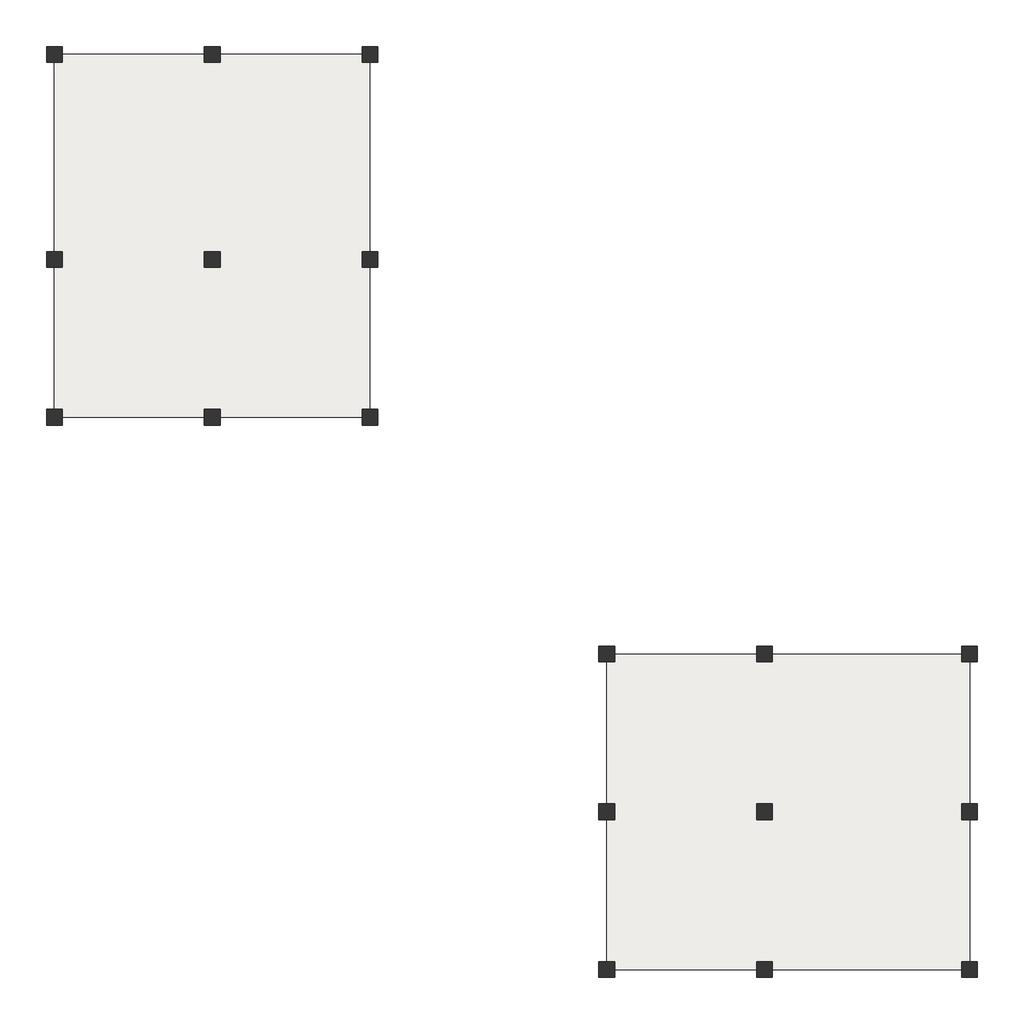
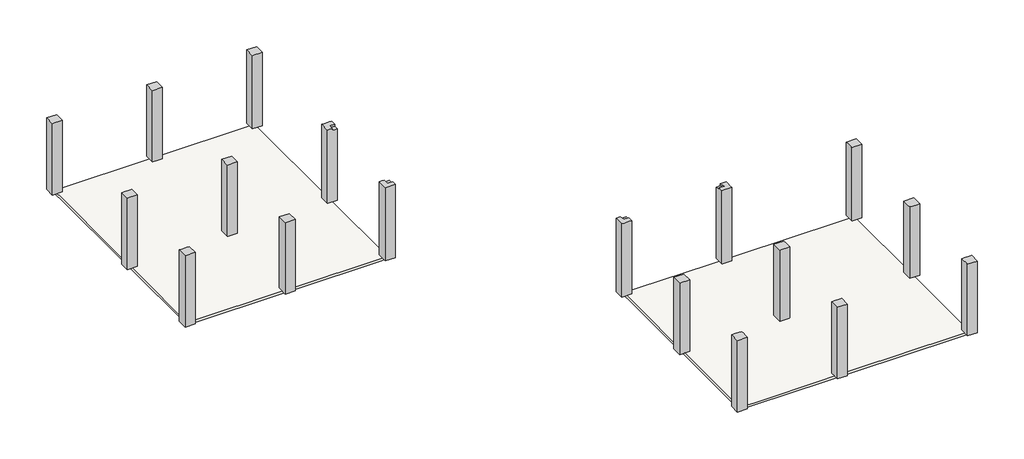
# One storey: 18 columns, 2 slabs.
"""IFC4 building model written with IfcOpenShell, lengths in millimetres."""

import ifcopenshell
import ifcopenshell.guid

model = None  # the IFC model being written
_history = None  # IfcOwnerHistory: only IFC2X3 demands one
_inside = {}  # id of a spatial element -> (the spatial element, [elements in it])
_under = {}  # id of a project, library or spatial element -> (it, [spatial elements below it])
_declared = {}  # id of a project -> (the project, [libraries it declares])
_typed = {}  # id of a type object -> (the type object, [elements of that type])
_made_of = {}  # id of a material, layer set ... -> (it, [elements and type objects made of it])


def new_model(schema):
    """Start an empty IFC model of exactly this schema.

    Asked for "IFC4X3", IfcOpenShell would pick the latest addendum, in which some entities
    have other attributes; the version numbers below select the first issue.
    IFC2X3 requires an IfcOwnerHistory on every rooted entity: one is made here for all.
    """
    global model, _history
    if schema == "IFC4X3":
        model = ifcopenshell.file(schema_version=(4, 3, 0, 0))
    else:
        model = ifcopenshell.file(schema=schema)
    _inside.clear()
    _under.clear()
    _declared.clear()
    _typed.clear()
    _made_of.clear()
    _history = None
    if model.schema == "IFC2X3":
        org = make("IfcOrganization", Name="unknown")
        user = make(
            "IfcPersonAndOrganization",
            ThePerson=make("IfcPerson", FamilyName="unknown"),
            TheOrganization=org,
        )
        app = make(
            "IfcApplication",
            ApplicationDeveloper=org,
            Version="unknown",
            ApplicationFullName="unknown",
            ApplicationIdentifier="unknown",
        )
        _history = make(
            "IfcOwnerHistory",
            OwningUser=user,
            OwningApplication=app,
            ChangeAction="ADDED",
            CreationDate=0,
        )
    return model


def make(cls, **values):
    """One entity of the class cls with the attributes given. An attribute that is None is left unset."""
    return model.create_entity(
        cls, **{name: value for name, value in values.items() if value is not None}
    )


def rooted(cls, **values):
    """An entity with a GlobalId (a new one), such as an element, a storey or a relation."""
    return make(cls, GlobalId=ifcopenshell.guid.new(), OwnerHistory=_history, **values)


def si_unit(unit_type, name, prefix=None):
    """IfcSIUnit, for example si_unit("LENGTHUNIT", "METRE", prefix="MILLI")."""
    return make("IfcSIUnit", UnitType=unit_type, Prefix=prefix, Name=name)


def assignment(units):
    """IfcUnitAssignment: the units of a project."""
    return None if units is None else make("IfcUnitAssignment", Units=units)


def point(xyz):
    """IfcCartesianPoint."""
    return None if xyz is None else make("IfcCartesianPoint", Coordinates=xyz)


def direction(xyz):
    """IfcDirection."""
    return None if xyz is None else make("IfcDirection", DirectionRatios=xyz)


def frame(location, z_axis=None, x_axis=None):
    """IfcAxis2Placement3D, a coordinate frame: its origin and axes. An axis left out is left unset."""
    return make(
        "IfcAxis2Placement3D",
        Location=point(location),
        Axis=direction(z_axis),
        RefDirection=direction(x_axis),
    )


def origin():
    """The frame at (0, 0, 0) with its axes left unset."""
    return frame((0.0, 0.0, 0.0))


def place(relative_to, where):
    """IfcLocalPlacement: puts the frame where relative to a parent placement (None: the world)."""
    return make(
        "IfcLocalPlacement", PlacementRelTo=relative_to, RelativePlacement=where
    )


def context(
    kind, dimensions, precision=None, world=None, true_north=None, identifier=None
):
    """IfcGeometricRepresentationContext, for example the 3D "Model" context."""
    return make(
        "IfcGeometricRepresentationContext",
        ContextIdentifier=identifier,
        ContextType=kind,
        CoordinateSpaceDimension=dimensions,
        Precision=precision,
        WorldCoordinateSystem=world,
        TrueNorth=true_north,
    )


def project(units=None, contexts=None):
    """IfcProject with its units and contexts."""
    return rooted(
        "IfcProject",
        Name="project",
        RepresentationContexts=contexts,
        UnitsInContext=assignment(units),
    )


def spatial(cls, under=None, at=None, **own):
    """A site, building, storey or space (cls), placed at a placement, below another one or the project."""
    s = rooted(cls, ObjectPlacement=at, **own)
    if under is not None:
        _under.setdefault(under.id(), (under, []))[1].append(s)
    return s


def polyline(points):
    """IfcPolyline through the points."""
    return make("IfcPolyline", Points=[point(p) for p in points])


def outline(outer, holes=None, kind="AREA"):
    """IfcArbitraryClosedProfileDef: a profile drawn as a closed curve; with holes, ...WithVoids."""
    if holes is None:
        return make("IfcArbitraryClosedProfileDef", ProfileType=kind, OuterCurve=outer)
    return make(
        "IfcArbitraryProfileDefWithVoids",
        ProfileType=kind,
        OuterCurve=outer,
        InnerCurves=holes,
    )


def extrude(swept, where, along, depth):
    """IfcExtrudedAreaSolid: the profile swept, set in the frame where, extruded along a direction by depth."""
    return make(
        "IfcExtrudedAreaSolid",
        SweptArea=swept,
        Position=where,
        ExtrudedDirection=direction(along),
        Depth=depth,
    )


def faces_of(points, faces, orient=None, outer=None):
    """IfcFace entities. A face is a list of loops; a loop is a list of indices into points, from 0.

    orient and outer hold one flag for each loop. By default every Orientation is true, the
    first loop of a face is its IfcFaceOuterBound and the others are IfcFaceBound.
    """
    made = []
    for i, loops in enumerate(faces):
        bounds = []
        for j, loop in enumerate(loops):
            is_outer = j == 0 if outer is None else outer[i][j]
            bounds.append(
                make(
                    "IfcFaceOuterBound" if is_outer else "IfcFaceBound",
                    Bound=make("IfcPolyLoop", Polygon=[points[k] for k in loop]),
                    Orientation=True if orient is None else orient[i][j],
                )
            )
        made.append(make("IfcFace", Bounds=bounds))
    return made


def faceted_brep(points, faces, orient=None, outer=None, voids=None):
    """IfcFacetedBrep: a solid bounded by flat faces; with voids (closed shells), ...WithVoids."""
    shared = [point(p) for p in points]
    hull = make("IfcClosedShell", CfsFaces=faces_of(shared, faces, orient, outer))
    if voids is None:
        return make("IfcFacetedBrep", Outer=hull)
    return make(
        "IfcFacetedBrepWithVoids",
        Outer=hull,
        Voids=[
            make(cls, CfsFaces=faces_of(shared, fs, o, b)) for cls, fs, o, b in voids
        ],
    )


def shape(context_of_items, identifier, shape_type, items):
    """IfcShapeRepresentation: the items that make up one representation, for example the "Body"."""
    return make(
        "IfcShapeRepresentation",
        ContextOfItems=context_of_items,
        RepresentationIdentifier=identifier,
        RepresentationType=shape_type,
        Items=items,
    )


def made_of(thing, what):
    """Note that an element or type object is made of a material, layer set ...; save() writes the relation."""
    if what is not None:
        _made_of.setdefault(what.id(), (what, []))[1].append(thing)
    return thing


def element(
    cls,
    number,
    at=None,
    inside=None,
    cuts=None,
    type_object=None,
    material=None,
    context=None,
    identifier="Body",
    shape_type=None,
    held_by="IfcProductDefinitionShape",
    body=None,
    shapes=None,
    **own,
):
    """One element of the class cls, such as IfcWall. Its Tag is "e" and its number.

    at: its placement. inside: the storey or other place that contains it. cuts: it is an
    opening in that element (IfcRelVoidsElement). A single representation is given by context,
    identifier, shape_type and body (its items); several are given by shapes. held_by: the class
    of the entity that holds the representations. save() writes the other relations.
    """
    e = rooted(cls, Tag="e%d" % number, ObjectPlacement=at, **own)
    if body is not None:
        shapes = [shape(context, identifier, shape_type, body)]
    if shapes is not None:
        e.Representation = make(held_by, Representations=shapes)
    if inside is not None:
        _inside.setdefault(inside.id(), (inside, []))[1].append(e)
    if cuts is not None:
        rooted(
            "IfcRelVoidsElement", RelatingBuildingElement=cuts, RelatedOpeningElement=e
        )
    if type_object is not None:
        _typed.setdefault(type_object.id(), (type_object, []))[1].append(e)
    return made_of(e, material)


def aggregate(whole, parts):
    """IfcRelAggregates: a whole, such as a stair, and the parts it consists of."""
    return rooted("IfcRelAggregates", RelatingObject=whole, RelatedObjects=parts)


def save(model, path):
    """Write the relations noted so far, then the file.

    IfcRelAggregates (storeys below a building ...), IfcRelContainedInSpatialStructure (elements
    in a storey), IfcRelDefinesByType, IfcRelAssociatesMaterial and IfcRelDeclares: one each for
    every whole, place, type object, material and project.
    """
    for whole, parts in _under.values():
        aggregate(whole, parts)
    for where, things in _inside.values():
        rooted(
            "IfcRelContainedInSpatialStructure",
            RelatedElements=things,
            RelatingStructure=where,
        )
    for kind, things in _typed.values():
        rooted("IfcRelDefinesByType", RelatedObjects=things, RelatingType=kind)
    for what, things in _made_of.values():
        rooted("IfcRelAssociatesMaterial", RelatedObjects=things, RelatingMaterial=what)
    for by, libraries in _declared.values():
        rooted("IfcRelDeclares", RelatingContext=by, RelatedDefinitions=libraries)
    model.write(path)


model = new_model("IFC4")

# Units and contexts
model_context = context("Model", 3, world=origin())
ifc_project = project(units=[si_unit("LENGTHUNIT", "METRE", prefix="MILLI")], contexts=[model_context])

# Site, building, storey
site = spatial("IfcSite", under=ifc_project)
building = spatial("IfcBuilding", under=site)
storey = spatial("IfcBuildingStorey", under=building, Name="T.O.F", Elevation=-1676.4)

# Columns
placement = place(None, origin())
element("IfcColumn", 1, ObjectType="Concrete-Rectangular-Column : 24 x 24", at=placement, inside=storey, context=model_context, shape_type="Brep", body=[
    faceted_brep([(-35055.8783408, -1898.5036449, -1676.4), (-35055.8783408, -1288.9036449, -1676.4), (-34446.2783408, -1288.9036449, -1676.4), (-34446.2783408, -1898.5036449, -1676.4), (-35055.8783408, -1898.5036449, 2927.35), (-35055.8783408, -1746.1036449, 2927.35), (-35055.8783408, -1441.3036449, 2927.35), (-35055.8783408, -1288.9036449, 2927.35), (-34446.2783408, -1288.9036449, 2927.35), (-34446.2783408, -1898.5036449, 2927.35)], [[[0, 1, 2, 3]], [[1, 0, 4, 5, 6, 7]], [[2, 1, 7, 8]], [[3, 2, 8, 9]], [[0, 3, 9, 4]], [[7, 6, 5, 4, 9, 8]]]),
])
element("IfcColumn", 2, ObjectType="Concrete-Rectangular-Column : 24 x 24", at=placement, inside=storey, context=model_context, shape_type="Brep", body=[
    faceted_brep([(-41151.8783408, -1898.5036449, -1676.4), (-41151.8783408, -1288.9036449, -1676.4), (-40542.2783408, -1288.9036449, -1676.4), (-40542.2783408, -1898.5036449, -1676.4), (-41151.8783408, -1898.5036449, 2927.35), (-41151.8783408, -1288.9036449, 2927.35), (-40999.4783408, -1288.9036449, 2927.35), (-40694.6783408, -1288.9036449, 2927.35), (-40542.2783408, -1288.9036449, 2927.35), (-40542.2783408, -1441.3036449, 2927.35), (-40542.2783408, -1746.1036449, 2927.35), (-40542.2783408, -1898.5036449, 2927.35)], [[[0, 1, 2, 3]], [[1, 0, 4, 5]], [[2, 1, 5, 6, 7, 8]], [[3, 2, 8, 9, 10, 11]], [[0, 3, 11, 4]], [[5, 4, 11, 10, 9, 8, 7, 6]]]),
])
element("IfcColumn", 3, ObjectType="Concrete-Rectangular-Column : 24 x 24", at=placement, inside=storey, context=model_context, shape_type="SweptSolid", body=[
    extrude(outline(polyline([(-35055.8783408, 4197.4963551), (-35055.8783408, 4807.0963551), (-34446.2783408, 4807.0963551), (-34446.2783408, 4197.4963551), (-35055.8783408, 4197.4963551)])), frame((0.0, 0.0, -1676.4), z_axis=(0.0, 0.0, 1.0), x_axis=(1.0, 0.0, 0.0)), (0.0, 0.0, 1.0), 4603.75),
])
element("IfcColumn", 4, ObjectType="Concrete-Rectangular-Column : 24 x 24", at=placement, inside=storey, context=model_context, shape_type="Brep", body=[
    faceted_brep([(-41151.8783408, 4197.4963551, -1676.4), (-41151.8783408, 4807.0963551, -1676.4), (-40542.2783408, 4807.0963551, -1676.4), (-40542.2783408, 4197.4963551, -1676.4), (-41151.8783408, 4197.4963551, 2927.35), (-41151.8783408, 4807.0963551, 2927.35), (-40999.4783408, 4807.0963551, 2927.35), (-40694.6783408, 4807.0963551, 2927.35), (-40542.2783408, 4807.0963551, 2927.35), (-40542.2783408, 4197.4963551, 2927.35), (-40694.6783408, 4197.4963551, 2927.35), (-40999.4783408, 4197.4963551, 2927.35)], [[[0, 1, 2, 3]], [[1, 0, 4, 5]], [[2, 1, 5, 6, 7, 8]], [[3, 2, 8, 9]], [[0, 3, 9, 10, 11, 4]], [[5, 4, 11, 10, 9, 8, 7, 6]]]),
])
element("IfcColumn", 5, ObjectType="Concrete-Rectangular-Column : 24 x 24", at=placement, inside=storey, context=model_context, shape_type="SweptSolid", body=[
    extrude(outline(polyline([(-35055.8783408, 12122.2963551), (-35055.8783408, 12731.8963551), (-34446.2783408, 12731.8963551), (-34446.2783408, 12122.2963551), (-35055.8783408, 12122.2963551)])), frame((0.0, 0.0, -1676.4), z_axis=(0.0, 0.0, 1.0), x_axis=(1.0, 0.0, 0.0)), (0.0, 0.0, 1.0), 4603.75),
])
element("IfcColumn", 6, ObjectType="Concrete-Rectangular-Column : 24 x 24", at=placement, inside=storey, context=model_context, shape_type="Brep", body=[
    faceted_brep([(-41151.8783408, 12122.2963551, -1676.4), (-41151.8783408, 12731.8963551, -1676.4), (-40542.2783408, 12731.8963551, -1676.4), (-40542.2783408, 12122.2963551, -1676.4), (-41151.8783408, 12122.2963551, 2927.35), (-41151.8783408, 12731.8963551, 2927.35), (-40542.2783408, 12731.8963551, 2927.35), (-40542.2783408, 12122.2963551, 2927.35), (-40694.6783408, 12122.2963551, 2927.35), (-40999.4783408, 12122.2963551, 2927.35)], [[[0, 1, 2, 3]], [[1, 0, 4, 5]], [[2, 1, 5, 6]], [[3, 2, 6, 7]], [[0, 3, 7, 8, 9, 4]], [[5, 4, 9, 8, 7, 6]]]),
])
element("IfcColumn", 7, ObjectType="Concrete-Rectangular-Column : 24 x 24", at=placement, inside=storey, context=model_context, shape_type="Brep", body=[
    faceted_brep([(-28959.8783408, 4197.4963551, -1676.4), (-28959.8783408, 4807.0963551, -1676.4), (-28350.2783408, 4807.0963551, -1676.4), (-28350.2783408, 4197.4963551, -1676.4), (-28959.8783408, 4197.4963551, 3048.0), (-28959.8783408, 4807.0963551, 3048.0), (-28807.4783408, 4807.0963551, 3048.0), (-28502.6783408, 4807.0963551, 3048.0), (-28350.2783408, 4807.0963551, 3048.0), (-28350.2783408, 4462.1686738, 3048.0), (-28350.2783408, 4462.1686738, 2921.0), (-28350.2783408, 4197.4963551, 2921.0), (-28502.6783408, 4197.4963551, 2921.0), (-28655.0783408, 4197.4963551, 2921.0), (-28655.0783408, 4197.4963551, 3048.0), (-28807.4783408, 4197.4963551, 3048.0), (-28655.0783408, 4502.2963551, 3048.0), (-28655.0783408, 4502.2963551, 2921.0)], [[[0, 1, 2, 3]], [[1, 0, 4, 5]], [[2, 1, 5, 6, 7, 8]], [[3, 2, 8, 9, 10, 11]], [[0, 3, 11, 12, 13, 14, 15, 4]], [[5, 4, 15, 14, 16, 9, 8, 7, 6]], [[10, 17, 13, 12, 11]], [[17, 16, 14, 13]], [[16, 17, 10, 9]]]),
])
element("IfcColumn", 8, ObjectType="Concrete-Rectangular-Column : 24 x 24", at=placement, inside=storey, context=model_context, shape_type="Brep", body=[
    faceted_brep([(-28959.8783408, -1898.5036449, -1676.4), (-28959.8783408, -1288.9036449, -1676.4), (-28350.2783408, -1288.9036449, -1676.4), (-28350.2783408, -1898.5036449, -1676.4), (-28959.8783408, -1898.5036449, 3048.0), (-28959.8783408, -1746.1036449, 3048.0), (-28959.8783408, -1441.3036449, 3048.0), (-28959.8783408, -1288.9036449, 3048.0), (-28807.4783408, -1288.9036449, 3048.0), (-28655.0783408, -1288.9036449, 3048.0), (-28655.0783408, -1288.9036449, 2921.0), (-28502.6783408, -1288.9036449, 2921.0), (-28350.2783408, -1288.9036449, 2921.0), (-28350.2783408, -1633.8313262, 2921.0), (-28350.2783408, -1633.8313262, 3048.0), (-28350.2783408, -1898.5036449, 3048.0), (-28655.0783408, -1593.7036449, 3048.0), (-28655.0783408, -1593.7036449, 2921.0)], [[[0, 1, 2, 3]], [[1, 0, 4, 5, 6, 7]], [[2, 1, 7, 8, 9, 10, 11, 12]], [[3, 2, 12, 13, 14, 15]], [[0, 3, 15, 4]], [[7, 6, 5, 4, 15, 14, 16, 9, 8]], [[10, 17, 13, 12, 11]], [[17, 16, 14, 13]], [[16, 17, 10, 9]]]),
])
element("IfcColumn", 9, ObjectType="Concrete-Rectangular-Column : 24 x 24", at=placement, inside=storey, context=model_context, shape_type="Brep", body=[
    faceted_brep([(-28959.8783408, 12122.2963551, -1676.4), (-28959.8783408, 12731.8963551, -1676.4), (-28350.2783408, 12731.8963551, -1676.4), (-28350.2783408, 12122.2963551, -1676.4), (-28959.8783408, 12122.2963551, 3048.0), (-28959.8783408, 12274.6963551, 3048.0), (-28959.8783408, 12579.4963551, 3048.0), (-28959.8783408, 12731.8963551, 3048.0), (-28350.2783408, 12731.8963551, 3048.0), (-28350.2783408, 12122.2963551, 3048.0), (-28502.6783408, 12122.2963551, 3048.0), (-28807.4783408, 12122.2963551, 3048.0)], [[[0, 1, 2, 3]], [[4, 5, 6, 7, 1, 0]], [[7, 8, 2, 1]], [[8, 9, 3, 2]], [[9, 10, 11, 4, 0, 3]], [[4, 11, 10, 9, 8, 7, 6, 5]]]),
])
element("IfcColumn", 10, ObjectType="Concrete-Rectangular-Column : 24 x 24", at=placement, inside=storey, context=model_context, shape_type="Brep", body=[
    faceted_brep([(-19206.2783408, -17138.5036449, -1676.4), (-19815.8783408, -17138.5036449, -1676.4), (-19815.8783408, -16528.9036449, -1676.4), (-19206.2783408, -16528.9036449, -1676.4), (-19206.2783408, -17138.5036449, 2927.35), (-19358.6783408, -17138.5036449, 2927.35), (-19663.4783408, -17138.5036449, 2927.35), (-19815.8783408, -17138.5036449, 2927.35), (-19206.2783408, -16528.9036449, 2927.35), (-19206.2783408, -16681.3036449, 2927.35), (-19206.2783408, -16986.1036449, 2927.35), (-19815.8783408, -16528.9036449, 2927.35)], [[[0, 1, 2, 3]], [[1, 0, 4, 5, 6, 7]], [[0, 3, 8, 9, 10, 4]], [[3, 2, 11, 8]], [[2, 1, 7, 11]], [[7, 6, 5, 4, 10, 9, 8, 11]]]),
])
element("IfcColumn", 11, ObjectType="Concrete-Rectangular-Column : 24 x 24", at=placement, inside=storey, context=model_context, shape_type="Brep", body=[
    faceted_brep([(-19206.2783408, -23234.5036449, -1676.4), (-19815.8783408, -23234.5036449, -1676.4), (-19815.8783408, -22624.9036449, -1676.4), (-19206.2783408, -22624.9036449, -1676.4), (-19206.2783408, -23234.5036449, 2927.35), (-19815.8783408, -23234.5036449, 2927.35), (-19206.2783408, -22624.9036449, 2927.35), (-19206.2783408, -22777.3036449, 2927.35), (-19206.2783408, -23082.1036449, 2927.35), (-19815.8783408, -22624.9036449, 2927.35), (-19663.4783408, -22624.9036449, 2927.35), (-19358.6783408, -22624.9036449, 2927.35)], [[[0, 1, 2, 3]], [[1, 0, 4, 5]], [[0, 3, 6, 7, 8, 4]], [[3, 2, 9, 10, 11, 6]], [[2, 1, 5, 9]], [[5, 4, 8, 7, 6, 11, 10, 9]]]),
])
element("IfcColumn", 12, ObjectType="Concrete-Rectangular-Column : 24 x 24", at=placement, inside=storey, context=model_context, shape_type="Brep", body=[
    faceted_brep([(-13110.2783408, -17138.5036449, -1676.4), (-13719.8783408, -17138.5036449, -1676.4), (-13719.8783408, -16528.9036449, -1676.4), (-13110.2783408, -16528.9036449, -1676.4), (-13110.2783408, -17138.5036449, 2927.35), (-13262.6783408, -17138.5036449, 2927.35), (-13567.4783408, -17138.5036449, 2927.35), (-13719.8783408, -17138.5036449, 2927.35), (-13110.2783408, -16528.9036449, 2927.35), (-13110.2783408, -16681.3036449, 2927.35), (-13110.2783408, -16986.1036449, 2927.35), (-13719.8783408, -16528.9036449, 2927.35), (-13719.8783408, -16986.1036449, 2927.35), (-13719.8783408, -16681.3036449, 2927.35)], [[[0, 1, 2, 3]], [[1, 0, 4, 5, 6, 7]], [[0, 3, 8, 9, 10, 4]], [[3, 2, 11, 8]], [[2, 1, 7, 12, 13, 11]], [[7, 6, 5, 4, 10, 9, 8, 11, 13, 12]]]),
])
element("IfcColumn", 13, ObjectType="Concrete-Rectangular-Column : 24 x 24", at=placement, inside=storey, context=model_context, shape_type="Brep", body=[
    faceted_brep([(-13110.2783408, -23234.5036449, -1676.4), (-13719.8783408, -23234.5036449, -1676.4), (-13719.8783408, -22624.9036449, -1676.4), (-13110.2783408, -22624.9036449, -1676.4), (-13110.2783408, -23234.5036449, 2927.35), (-13719.8783408, -23234.5036449, 2927.35), (-13110.2783408, -22624.9036449, 2927.35), (-13110.2783408, -22777.3036449, 2927.35), (-13110.2783408, -23082.1036449, 2927.35), (-13719.8783408, -22624.9036449, 2927.35), (-13567.4783408, -22624.9036449, 2927.35), (-13262.6783408, -22624.9036449, 2927.35), (-13719.8783408, -23082.1036449, 2927.35), (-13719.8783408, -22777.3036449, 2927.35)], [[[0, 1, 2, 3]], [[1, 0, 4, 5]], [[0, 3, 6, 7, 8, 4]], [[3, 2, 9, 10, 11, 6]], [[2, 1, 5, 12, 13, 9]], [[5, 4, 8, 7, 6, 11, 10, 9, 13, 12]]]),
])
element("IfcColumn", 14, ObjectType="Concrete-Rectangular-Column : 24 x 24", at=placement, inside=storey, context=model_context, shape_type="Brep", body=[
    faceted_brep([(-5185.4783408, -17138.5036449, -1676.4), (-5795.0783408, -17138.5036449, -1676.4), (-5795.0783408, -16528.9036449, -1676.4), (-5185.4783408, -16528.9036449, -1676.4), (-5185.4783408, -17138.5036449, 2927.35), (-5337.8783408, -17138.5036449, 2927.35), (-5642.6783408, -17138.5036449, 2927.35), (-5795.0783408, -17138.5036449, 2927.35), (-5185.4783408, -16528.9036449, 2927.35), (-5795.0783408, -16528.9036449, 2927.35), (-5795.0783408, -16986.1036449, 2927.35), (-5795.0783408, -16681.3036449, 2927.35)], [[[0, 1, 2, 3]], [[1, 0, 4, 5, 6, 7]], [[0, 3, 8, 4]], [[3, 2, 9, 8]], [[2, 1, 7, 10, 11, 9]], [[7, 6, 5, 4, 8, 9, 11, 10]]]),
])
element("IfcColumn", 15, ObjectType="Concrete-Rectangular-Column : 24 x 24", at=placement, inside=storey, context=model_context, shape_type="Brep", body=[
    faceted_brep([(-5185.4783408, -23234.5036449, -1676.4), (-5795.0783408, -23234.5036449, -1676.4), (-5795.0783408, -22624.9036449, -1676.4), (-5185.4783408, -22624.9036449, -1676.4), (-5185.4783408, -23234.5036449, 2927.35), (-5795.0783408, -23234.5036449, 2927.35), (-5185.4783408, -22624.9036449, 2927.35), (-5795.0783408, -22624.9036449, 2927.35), (-5642.6783408, -22624.9036449, 2927.35), (-5337.8783408, -22624.9036449, 2927.35), (-5795.0783408, -23082.1036449, 2927.35), (-5795.0783408, -22777.3036449, 2927.35)], [[[0, 1, 2, 3]], [[1, 0, 4, 5]], [[0, 3, 6, 4]], [[3, 2, 7, 8, 9, 6]], [[2, 1, 5, 10, 11, 7]], [[5, 4, 6, 9, 8, 7, 11, 10]]]),
])
element("IfcColumn", 16, ObjectType="Concrete-Rectangular-Column : 24 x 24", at=placement, inside=storey, context=model_context, shape_type="Brep", body=[
    faceted_brep([(-13110.2783408, -11042.5036449, -1676.4), (-13719.8783408, -11042.5036449, -1676.4), (-13719.8783408, -10432.9036449, -1676.4), (-13110.2783408, -10432.9036449, -1676.4), (-13110.2783408, -11042.5036449, 3048.0), (-13262.6783408, -11042.5036449, 3048.0), (-13567.4783408, -11042.5036449, 3048.0), (-13719.8783408, -11042.5036449, 3048.0), (-13110.2783408, -10432.9036449, 3048.0), (-13110.2783408, -10585.3036449, 3048.0), (-13110.2783408, -10890.1036449, 3048.0), (-13719.8783408, -10432.9036449, 2921.0), (-13455.2060221, -10432.9036449, 2921.0), (-13455.2060221, -10432.9036449, 3048.0), (-13719.8783408, -10890.1036449, 3048.0), (-13719.8783408, -10737.7036449, 3048.0), (-13719.8783408, -10737.7036449, 2921.0), (-13719.8783408, -10585.3036449, 2921.0), (-13415.0783408, -10737.7036449, 3048.0), (-13415.0783408, -10737.7036449, 2921.0)], [[[0, 1, 2, 3]], [[1, 0, 4, 5, 6, 7]], [[0, 3, 8, 9, 10, 4]], [[3, 2, 11, 12, 13, 8]], [[2, 1, 7, 14, 15, 16, 17, 11]], [[7, 6, 5, 4, 10, 9, 8, 13, 18, 15, 14]], [[16, 19, 12, 11, 17]], [[19, 18, 13, 12]], [[18, 19, 16, 15]]]),
])
element("IfcColumn", 17, ObjectType="Concrete-Rectangular-Column : 24 x 24", at=placement, inside=storey, context=model_context, shape_type="Brep", body=[
    faceted_brep([(-19206.2783408, -11042.5036449, -1676.4), (-19815.8783408, -11042.5036449, -1676.4), (-19815.8783408, -10432.9036449, -1676.4), (-19206.2783408, -10432.9036449, -1676.4), (-19206.2783408, -11042.5036449, 3048.0), (-19358.6783408, -11042.5036449, 3048.0), (-19663.4783408, -11042.5036449, 3048.0), (-19815.8783408, -11042.5036449, 3048.0), (-19206.2783408, -10432.9036449, 2921.0), (-19206.2783408, -10585.3036449, 2921.0), (-19206.2783408, -10737.7036449, 2921.0), (-19206.2783408, -10737.7036449, 3048.0), (-19206.2783408, -10890.1036449, 3048.0), (-19815.8783408, -10432.9036449, 3048.0), (-19551.2060221, -10432.9036449, 3048.0), (-19551.2060221, -10432.9036449, 2921.0), (-19511.0783408, -10737.7036449, 3048.0), (-19511.0783408, -10737.7036449, 2921.0)], [[[0, 1, 2, 3]], [[1, 0, 4, 5, 6, 7]], [[0, 3, 8, 9, 10, 11, 12, 4]], [[3, 2, 13, 14, 15, 8]], [[2, 1, 7, 13]], [[7, 6, 5, 4, 12, 11, 16, 14, 13]], [[15, 17, 10, 9, 8]], [[17, 16, 11, 10]], [[16, 17, 15, 14]]]),
])
element("IfcColumn", 18, ObjectType="Concrete-Rectangular-Column : 24 x 24", at=placement, inside=storey, context=model_context, shape_type="Brep", body=[
    faceted_brep([(-5795.0783408, -11042.5036449, -1676.4), (-5795.0783408, -10432.9036449, -1676.4), (-5185.4783408, -10432.9036449, -1676.4), (-5185.4783408, -11042.5036449, -1676.4), (-5795.0783408, -11042.5036449, 3048.0), (-5185.4783408, -11042.5036449, 3048.0), (-5337.8783408, -11042.5036449, 3048.0), (-5642.6783408, -11042.5036449, 3048.0), (-5185.4783408, -10432.9036449, 3048.0), (-5795.0783408, -10432.9036449, 3048.0), (-5795.0783408, -10890.1036449, 3048.0), (-5795.0783408, -10585.3036449, 3048.0)], [[[0, 1, 2, 3]], [[4, 0, 3, 5, 6, 7]], [[5, 3, 2, 8]], [[8, 2, 1, 9]], [[9, 1, 0, 4, 10, 11]], [[4, 7, 6, 5, 8, 9, 11, 10]]]),
])

# Slabs
element("IfcSlab", 19, ObjectType="6\" Foundation Slab", at=placement, inside=storey, context=model_context, shape_type="Brep", body=[
    faceted_brep([(-28655.0783408, 12427.0963551, -1828.8), (-28655.0783408, 11512.6963551, -1828.8), (-28655.0783408, 5416.6963551, -1828.8), (-28655.0783408, 3587.8963551, -1828.8), (-28655.0783408, -679.3036449, -1828.8), (-28655.0783408, -1593.7036449, -1828.8), (-29264.6783408, -1593.7036449, -1828.8), (-34141.4783408, -1593.7036449, -1828.8), (-35360.6783408, -1593.7036449, -1828.8), (-40237.4783408, -1593.7036449, -1828.8), (-40847.0783408, -1593.7036449, -1828.8), (-40847.0783408, -679.3036449, -1828.8), (-40847.0783408, 3587.8963551, -1828.8), (-40847.0783408, 5416.6963551, -1828.8), (-40847.0783408, 11512.6963551, -1828.8), (-40847.0783408, 12427.0963551, -1828.8), (-40237.4783408, 12427.0963551, -1828.8), (-35360.6783408, 12427.0963551, -1828.8), (-34141.4783408, 12427.0963551, -1828.8), (-29264.6783408, 12427.0963551, -1828.8), (-28655.0783408, 12427.0963551, -1676.4), (-29264.6783408, 12427.0963551, -1676.4), (-34141.4783408, 12427.0963551, -1676.4), (-35360.6783408, 12427.0963551, -1676.4), (-40237.4783408, 12427.0963551, -1676.4), (-40847.0783408, 12427.0963551, -1676.4), (-40847.0783408, 11512.6963551, -1676.4), (-40847.0783408, 5416.6963551, -1676.4), (-40847.0783408, 3587.8963551, -1676.4), (-40847.0783408, -679.3036449, -1676.4), (-40847.0783408, -1593.7036449, -1676.4), (-40237.4783408, -1593.7036449, -1676.4), (-35360.6783408, -1593.7036449, -1676.4), (-34141.4783408, -1593.7036449, -1676.4), (-29264.6783408, -1593.7036449, -1676.4), (-28655.0783408, -1593.7036449, -1676.4), (-28655.0783408, -679.3036449, -1676.4), (-28655.0783408, 3587.8963551, -1676.4), (-28655.0783408, 5416.6963551, -1676.4), (-28655.0783408, 11512.6963551, -1676.4)], [[[0, 1, 2, 3, 4, 5, 6, 7, 8, 9, 10, 11, 12, 13, 14, 15, 16, 17, 18, 19]], [[20, 21, 22, 23, 24, 25, 26, 27, 28, 29, 30, 31, 32, 33, 34, 35, 36, 37, 38, 39]], [[5, 4, 3, 2, 1, 0, 20, 39, 38, 37, 36, 35]], [[10, 9, 8, 7, 6, 5, 35, 34, 33, 32, 31, 30]], [[15, 14, 13, 12, 11, 10, 30, 29, 28, 27, 26, 25]], [[0, 19, 18, 17, 16, 15, 25, 24, 23, 22, 21, 20]]]),
])
element("IfcSlab", 20, ObjectType="6\" Foundation Slab", at=placement, inside=storey, context=model_context, shape_type="Brep", body=[
    faceted_brep([(-5490.2783408, -10737.7036449, -1828.8), (-5490.2783408, -11347.3036449, -1828.8), (-5490.2783408, -16224.1036449, -1828.8), (-5490.2783408, -17443.3036449, -1828.8), (-5490.2783408, -22320.1036449, -1828.8), (-5490.2783408, -22929.7036449, -1828.8), (-6404.6783408, -22929.7036449, -1828.8), (-12500.6783408, -22929.7036449, -1828.8), (-14329.4783408, -22929.7036449, -1828.8), (-18596.6783408, -22929.7036449, -1828.8), (-19511.0783408, -22929.7036449, -1828.8), (-19511.0783408, -22320.1036449, -1828.8), (-19511.0783408, -17443.3036449, -1828.8), (-19511.0783408, -16224.1036449, -1828.8), (-19511.0783408, -11347.3036449, -1828.8), (-19511.0783408, -10737.7036449, -1828.8), (-18596.6783408, -10737.7036449, -1828.8), (-14329.4783408, -10737.7036449, -1828.8), (-12500.6783408, -10737.7036449, -1828.8), (-6404.6783408, -10737.7036449, -1828.8), (-5490.2783408, -10737.7036449, -1676.4), (-6404.6783408, -10737.7036449, -1676.4), (-12500.6783408, -10737.7036449, -1676.4), (-14329.4783408, -10737.7036449, -1676.4), (-18596.6783408, -10737.7036449, -1676.4), (-19511.0783408, -10737.7036449, -1676.4), (-19511.0783408, -11347.3036449, -1676.4), (-19511.0783408, -16224.1036449, -1676.4), (-19511.0783408, -17443.3036449, -1676.4), (-19511.0783408, -22320.1036449, -1676.4), (-19511.0783408, -22929.7036449, -1676.4), (-18596.6783408, -22929.7036449, -1676.4), (-14329.4783408, -22929.7036449, -1676.4), (-12500.6783408, -22929.7036449, -1676.4), (-6404.6783408, -22929.7036449, -1676.4), (-5490.2783408, -22929.7036449, -1676.4), (-5490.2783408, -22320.1036449, -1676.4), (-5490.2783408, -17443.3036449, -1676.4), (-5490.2783408, -16224.1036449, -1676.4), (-5490.2783408, -11347.3036449, -1676.4)], [[[0, 1, 2, 3, 4, 5, 6, 7, 8, 9, 10, 11, 12, 13, 14, 15, 16, 17, 18, 19]], [[20, 21, 22, 23, 24, 25, 26, 27, 28, 29, 30, 31, 32, 33, 34, 35, 36, 37, 38, 39]], [[0, 19, 18, 17, 16, 15, 25, 24, 23, 22, 21, 20]], [[15, 14, 13, 12, 11, 10, 30, 29, 28, 27, 26, 25]], [[10, 9, 8, 7, 6, 5, 35, 34, 33, 32, 31, 30]], [[5, 4, 3, 2, 1, 0, 20, 39, 38, 37, 36, 35]]]),
])

save(model, "model.ifc")
